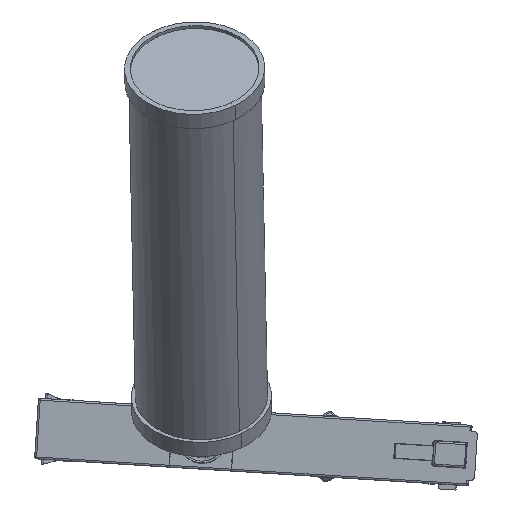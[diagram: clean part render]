
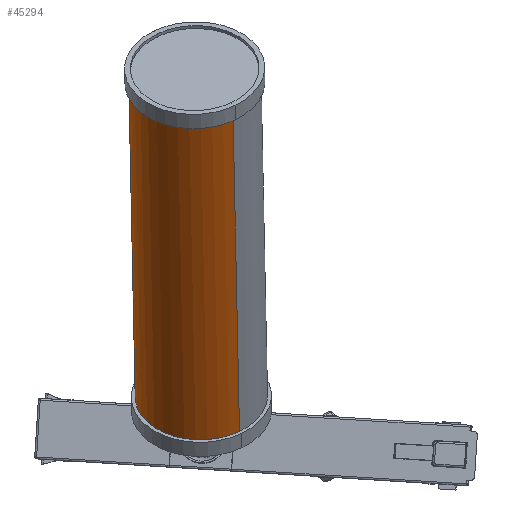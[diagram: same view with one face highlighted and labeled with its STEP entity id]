
A CAD part, left-side view. The second image highlights one B-rep face of the part: STEP entity #45294.
In plain terms, the highlighted cylindrical face has radius 17.5 mm (diameter 35 mm), a partial arc.
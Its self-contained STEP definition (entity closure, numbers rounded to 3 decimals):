
#1734 = EDGE_CURVE ( 'NONE', #49289, #23678, #27919, .T. ) ;
#2648 = CYLINDRICAL_SURFACE ( 'NONE', #9384, 17.5 ) ;
#3976 = CARTESIAN_POINT ( 'NONE',  ( -328.974, -80.668, 136.99 ) ) ;
#7316 = ORIENTED_EDGE ( 'NONE', *, *, #12916, .F. ) ;
#9057 = DIRECTION ( 'NONE',  ( 0.659, -0.015, -0.752 ) ) ;
#9384 = AXIS2_PLACEMENT_3D ( 'NONE', #38601, #39456, #43479 ) ;
#9929 = DIRECTION ( 'NONE',  ( -0.659, 0.015, 0.752 ) ) ;
#11020 = AXIS2_PLACEMENT_3D ( 'NONE', #19622, #45374, #37068 ) ;
#12028 = CARTESIAN_POINT ( 'NONE',  ( -278.212, -102.464, 35.634 ) ) ;
#12461 = CARTESIAN_POINT ( 'NONE',  ( -350.714, -100.782, 118.341 ) ) ;
#12916 = EDGE_CURVE ( 'NONE', #23002, #37436, #46673, .T. ) ;
#13331 = VECTOR ( 'NONE', #24889, 1000. ) ;
#13679 = EDGE_CURVE ( 'NONE', #23002, #49289, #42350, .T. ) ;
#15967 = EDGE_CURVE ( 'NONE', #37436, #23678, #28208, .T. ) ;
#17082 = CARTESIAN_POINT ( 'NONE',  ( -339.844, -90.725, 127.666 ) ) ;
#19193 = ORIENTED_EDGE ( 'NONE', *, *, #1734, .T. ) ;
#19622 = CARTESIAN_POINT ( 'NONE',  ( -267.341, -92.407, 44.958 ) ) ;
#23002 = VERTEX_POINT ( 'NONE', #33666 ) ;
#23678 = VERTEX_POINT ( 'NONE', #3976 ) ;
#24889 = DIRECTION ( 'NONE',  ( -0.659, 0.015, 0.752 ) ) ;
#27919 = CIRCLE ( 'NONE', #37979, 17.5 ) ;
#28208 = LINE ( 'NONE', #45122, #48043 ) ;
#33666 = CARTESIAN_POINT ( 'NONE',  ( -278.212, -102.464, 35.634 ) ) ;
#34747 = ORIENTED_EDGE ( 'NONE', *, *, #15967, .F. ) ;
#35848 = ORIENTED_EDGE ( 'NONE', *, *, #13679, .T. ) ;
#37068 = DIRECTION ( 'NONE',  ( -0.621, -0.575, -0.533 ) ) ;
#37436 = VERTEX_POINT ( 'NONE', #54106 ) ;
#37979 = AXIS2_PLACEMENT_3D ( 'NONE', #17082, #9057, #43983 ) ;
#38601 = CARTESIAN_POINT ( 'NONE',  ( -267.341, -92.407, 44.958 ) ) ;
#39456 = DIRECTION ( 'NONE',  ( -0.659, 0.015, 0.752 ) ) ;
#42350 = LINE ( 'NONE', #12028, #13331 ) ;
#43479 = DIRECTION ( 'NONE',  ( 0.621, 0.575, 0.533 ) ) ;
#43983 = DIRECTION ( 'NONE',  ( -0.621, -0.575, -0.533 ) ) ;
#45122 = CARTESIAN_POINT ( 'NONE',  ( -256.471, -82.35, 54.283 ) ) ;
#45294 = ADVANCED_FACE ( 'NONE', ( #56337 ), #2648, .T. ) ;
#45374 = DIRECTION ( 'NONE',  ( 0.659, -0.015, -0.752 ) ) ;
#46673 = CIRCLE ( 'NONE', #11020, 17.5 ) ;
#48043 = VECTOR ( 'NONE', #9929, 1000. ) ;
#49289 = VERTEX_POINT ( 'NONE', #12461 ) ;
#51825 = EDGE_LOOP ( 'NONE', ( #7316, #35848, #19193, #34747 ) ) ;
#54106 = CARTESIAN_POINT ( 'NONE',  ( -256.471, -82.35, 54.283 ) ) ;
#56337 = FACE_OUTER_BOUND ( 'NONE', #51825, .T. ) ;
